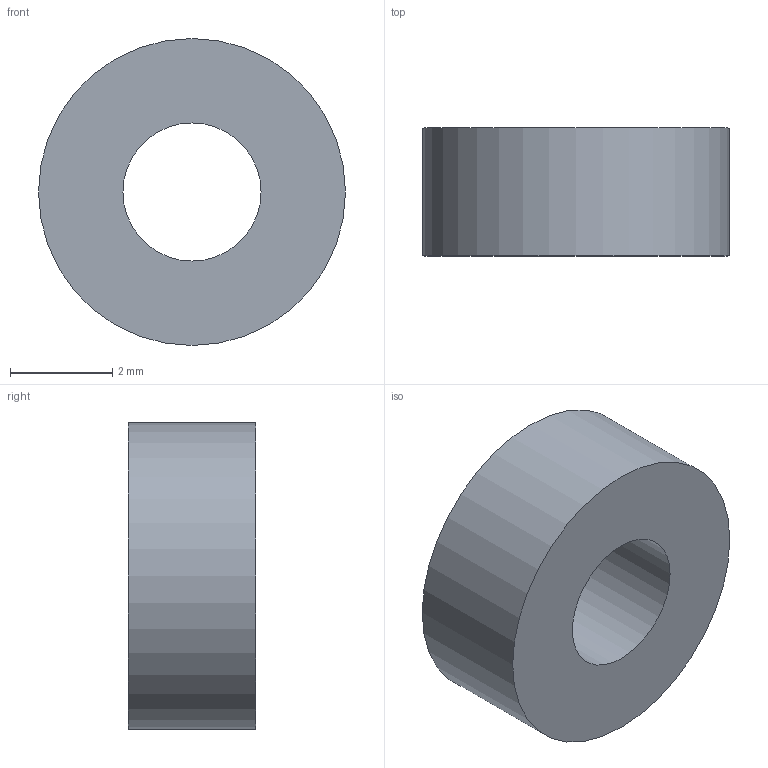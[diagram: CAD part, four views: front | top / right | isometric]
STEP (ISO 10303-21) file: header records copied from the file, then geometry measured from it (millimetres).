
FILE_DESCRIPTION(('Open CASCADE Model'),'2;1');
FILE_NAME('Open CASCADE Shape Model','2026-11-05T02:23:55',('Author'),( 'Open CASCADE'),'Open CASCADE STEP processor 7.8','Open CASCADE 7.8' ,'Unknown');
FILE_SCHEMA(('AUTOMOTIVE_DESIGN { 1 0 10303 214 1 1 1 1 }'));
Length unit declared in the file: millimetre
Products named in the file (1): Open CASCADE STEP translator 7.8 22
Bounding box: 6 x 2.5 x 6 mm (x, y, z)
Volume: 56.4 mm3; surface area: 113.4 mm2
Topology: 1 solids, 1 shells, 4 faces, 6 edges, 4 vertices
Faces by surface type: cylinder 2, plane 2
Full cylindrical faces by diameter (mm): 2.7 x1, 6 x1
Entity records: 192 total; most frequent: CARTESIAN_POINT 39, DIRECTION 30, ORIENTED_EDGE 12, PCURVE 12, DEFINITIONAL_REPRESENTATION 12, LINE 10, VECTOR 10, AXIS2_PLACEMENT_3D 9
